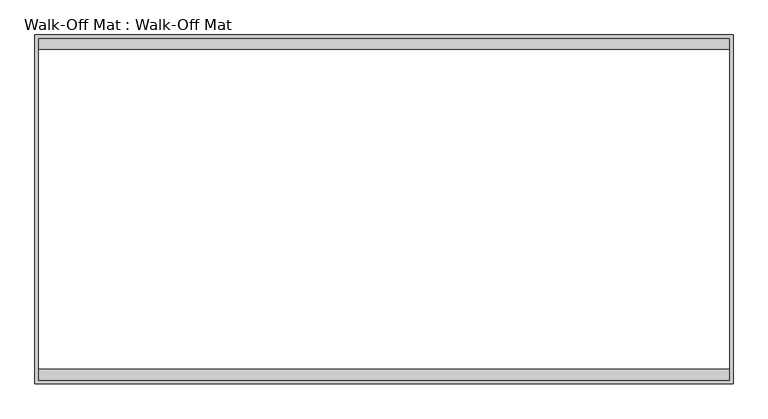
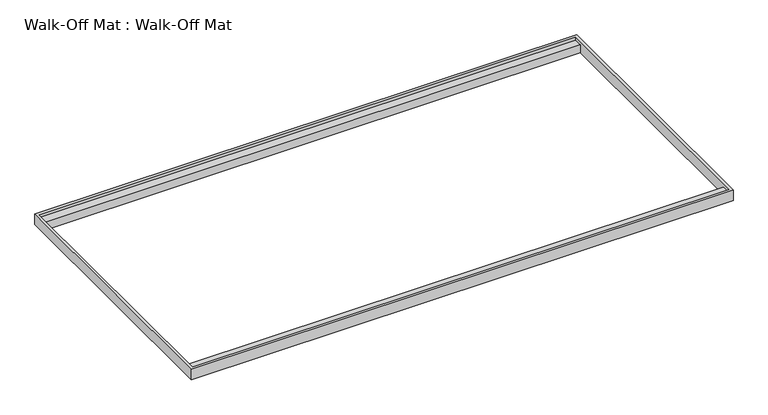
"""IFC4 building model written with IfcOpenShell, lengths in millimetres: proxy geometry, Walk-Off Mat : Walk-Off Mat."""

from ifc_helpers import new_model, si_unit, origin, place, context, project, spatial, faceted_brep, source, transform, mapped, element, save


def walk_off_mat_walk_off_mat_25c2b8c1(model_context):
    return source(origin(), model_context, "Body", "Brep", [
        faceted_brep([(209.8145383, -1047.7440671, 0.0), (209.8145383, -450.8440671, 0.0), (209.8145383, -450.8440671, -6.35), (209.8145383, -469.8940671, -6.35), (209.8145383, -469.8940671, -25.4), (209.8145383, -1028.6940671, -25.4), (209.8145383, -1028.6940671, -6.35), (209.8145383, -1047.7440671, -6.35), (216.1645383, -444.4940671, -25.4), (216.1645383, -444.4940671, 0.0), (216.1645383, -1054.0940671, 0.0), (216.1645383, -1054.0940671, -25.4), (-996.6854617, -1047.7440671, 0.0), (-996.6854617, -1047.7440671, -6.35), (-1003.0354617, -1054.0940671, 0.0), (-1003.0354617, -1054.0940671, -25.4), (-996.6854617, -450.8440671, 0.0), (-996.6854617, -1028.6940671, -6.35), (-996.6854617, -1028.6940671, -25.4), (-996.6854617, -469.8940671, -25.4), (-996.6854617, -469.8940671, -6.35), (-996.6854617, -450.8440671, -6.35), (-1003.0354617, -444.4940671, 0.0), (-1003.0354617, -444.4940671, -25.4)], [[[0, 1, 2, 3, 4, 5, 6, 7]], [[8, 9, 10, 11]], [[12, 0, 7, 13]], [[11, 10, 14, 15]], [[16, 12, 13, 17, 18, 19, 20, 21]], [[15, 14, 22, 23]], [[8, 11, 15, 23], [18, 5, 4, 19]], [[1, 16, 21, 2]], [[10, 9, 22, 14], [1, 0, 12, 16]], [[9, 8, 23, 22]], [[6, 17, 13, 7]], [[17, 6, 5, 18]], [[20, 3, 2, 21]], [[3, 20, 19, 4]]]),
    ])


if __name__ == "__main__":
    model = new_model("IFC4")
    model_context = context("Model", 3, world=origin())
    ifc_project = project(units=[si_unit("LENGTHUNIT", "METRE", prefix="MILLI")], contexts=[model_context])
    site = spatial("IfcSite", under=ifc_project)
    building = spatial("IfcBuilding", under=site)
    placement = place(None, origin())
    walk_off_mat_walk_off_mat_shape = walk_off_mat_walk_off_mat_25c2b8c1(model_context)
    element("IfcBuildingElementProxy", 1, Name="Walk-Off Mat : Walk-Off Mat", ObjectType="Walk-Off Mat : Walk-Off Mat", at=placement, inside=building, context=model_context, shape_type="MappedRepresentation", body=[
        mapped(walk_off_mat_walk_off_mat_shape, transform((0.0, 0.0, 0.0), x_axis=(1.0, 0.0, 0.0), y_axis=(0.0, 1.0, 0.0), z_axis=(0.0, 0.0, 1.0))),
    ])
    save(model, "model.ifc")
